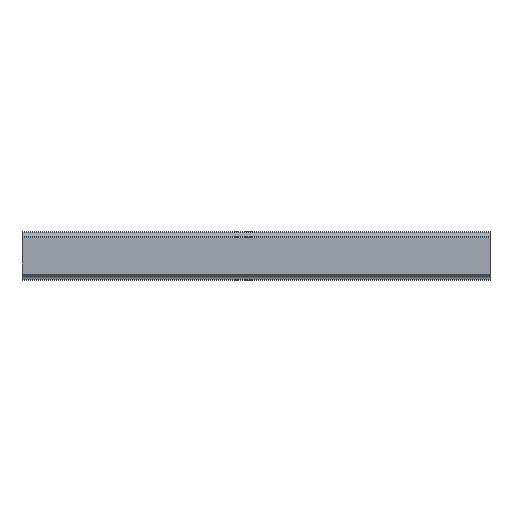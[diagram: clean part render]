
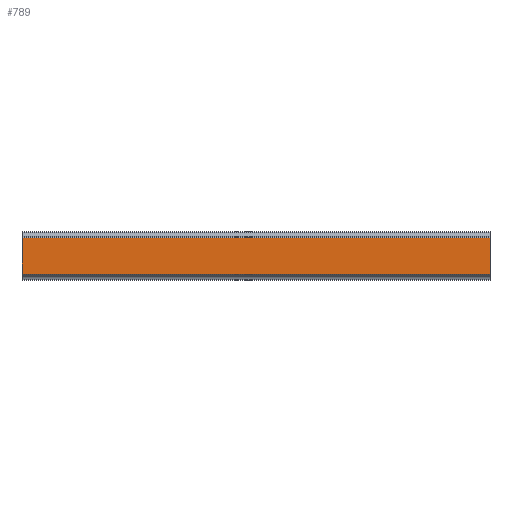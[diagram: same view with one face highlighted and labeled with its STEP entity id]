
A CAD part, top view. The second image highlights one B-rep face of the part: STEP entity #789.
In plain terms, the highlighted planar face has unit normal (0, 0, 1).
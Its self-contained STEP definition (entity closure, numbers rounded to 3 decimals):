
#728=CARTESIAN_POINT('POINT504',(200.,-8.509,
   22.));
#729=VERTEX_POINT('VERTEX504',#728);
#736=CARTESIAN_POINT('POINT505',(-20.,-8.509,
   22.));
#737=VERTEX_POINT('VERTEX505',#736);
#738=CARTESIAN_POINT('POS786',(-20.,-8.509,
   22.));
#739=DIRECTION('DIR1312',(1.,0.,0.));
#740=VECTOR('VEC260',#739,1.);
#741=LINE('STRAIGHT260',#738,#740);
#742=EDGE_CURVE('EDGE772',#737,#729,#741,.T.);
#759=CARTESIAN_POINT('POINT506',(200.,8.509,
   22.));
#760=VERTEX_POINT('VERTEX506',#759);
#761=CARTESIAN_POINT('POS789',(200.,-8.509,
   22.));
#762=DIRECTION('DIR1316',(0.,1.,0.));
#763=VECTOR('VEC262',#762,1.);
#764=LINE('STRAIGHT262',#761,#763);
#765=EDGE_CURVE('EDGE774',#729,#760,#764,.T.);
#766=ORIENTED_EDGE('COEDGE1519',*,*,#765,.T.);
#767=CARTESIAN_POINT('POINT507',(-20.,8.509,
   22.));
#768=VERTEX_POINT('VERTEX507',#767);
#769=CARTESIAN_POINT('POS790',(-20.,8.509,
   22.));
#770=DIRECTION('DIR1317',(1.,0.,0.));
#771=VECTOR('VEC263',#770,1.);
#772=LINE('STRAIGHT263',#769,#771);
#773=EDGE_CURVE('EDGE775',#768,#760,#772,.T.);
#774=ORIENTED_EDGE('COEDGE1520',*,*,#773,.F.);
#775=CARTESIAN_POINT('POS791',(-20.,-8.509,
   22.));
#776=DIRECTION('DIR1318',(0.,1.,0.));
#777=VECTOR('VEC264',#776,1.);
#778=LINE('STRAIGHT264',#775,#777);
#779=EDGE_CURVE('EDGE776',#737,#768,#778,.T.);
#780=ORIENTED_EDGE('COEDGE1521',*,*,#779,.F.);
#781=ORIENTED_EDGE('COEDGE1522',*,*,#742,.T.);
#782=EDGE_LOOP('NONE',(#766,#774,#780,#781));
#783=FACE_BOUND('LOOP1',#782,.T.);
#784=CARTESIAN_POINT('POS792',(-20.,-8.509,
   22.));
#785=DIRECTION('DIR1319',(0.,0.,1.));
#786=DIRECTION('DIR1320',(1.,0.,0.));
#787=AXIS2_PLACEMENT_3D('AXIS528',#784,#785,#786);
#788=PLANE('PLANE98',#787);
#789=ADVANCED_FACE('FACE342',(#783),#788,.T.);
